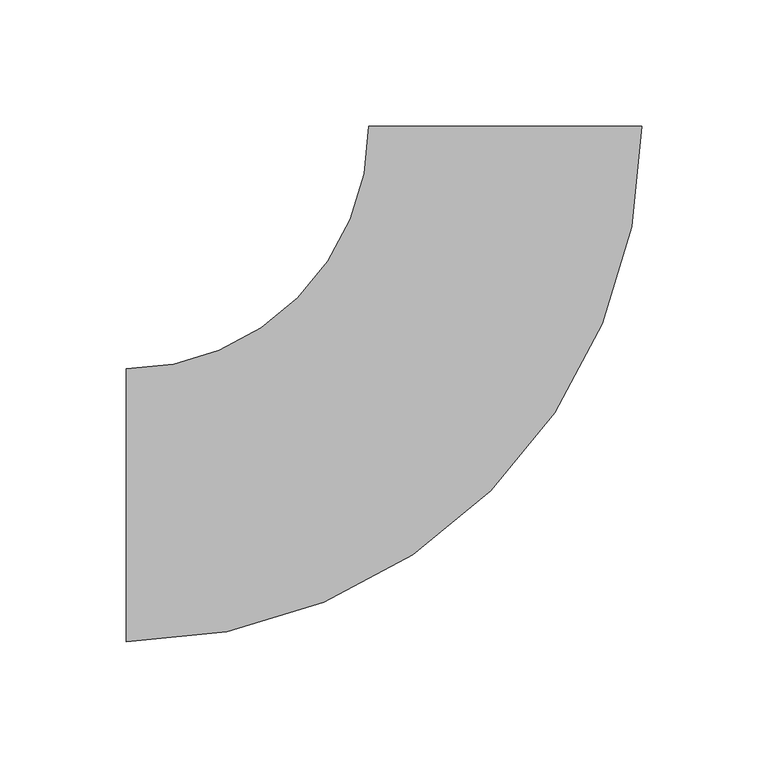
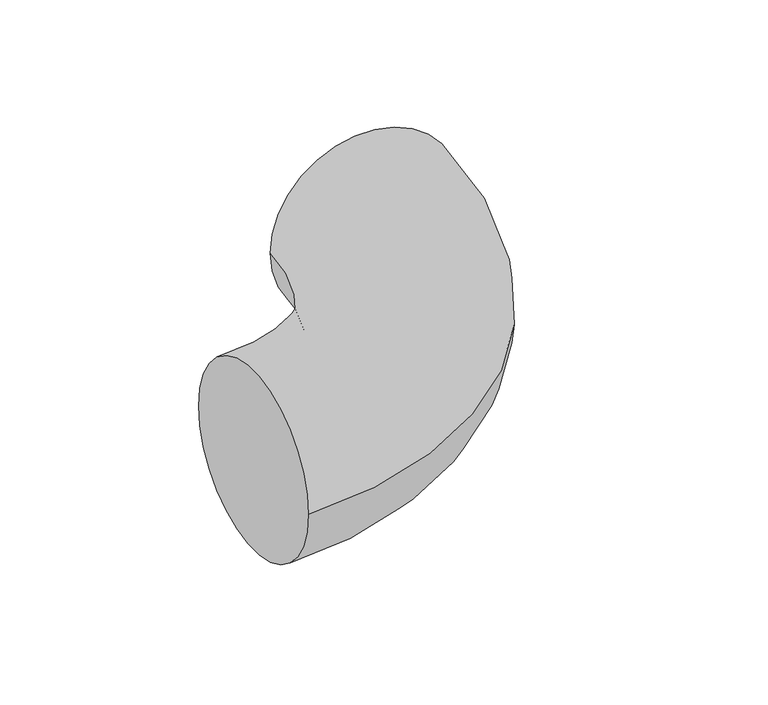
"""IFC4 building model written with IfcOpenShell, lengths in millimetres: pipe fitting geometry, ADSK_ДетальСтальнаяСварная_Отвод_ГОСТ17375-2001 : Исполнение 2."""

from ifc_helpers import new_model, si_unit, point, frame, origin, place, context, project, spatial, circle_curve, ellipse_curve, trimmed, source, transform, mapped, element, save
from ifc_brep_helpers import plane_surface, revolved_surface, advanced_brep


def pipe_fitting_2361bd71(model_context):
    return source(origin(), model_context, "Body", "AdvancedBrep", [
        advanced_brep(
        [(-150.0, -54.0, 0.0), (-150.0, 54.0, 0.0), (54.0, 150.0, 0.0), (-54.0, 150.0, 0.0)],
        [
            (0, 1, circle_curve(frame((-150.0, 0.0, 0.0), z_axis=(-1.0, 0.0, 0.0), x_axis=(0.0, 1.0, 0.0)), 54.0)),
            (1, 0, circle_curve(frame((-150.0, 0.0, 0.0), z_axis=(-1.0, 0.0, 0.0), x_axis=(0.0, 1.0, 0.0)), 54.0)),
            (2, 3, circle_curve(frame((0.0, 150.0, 0.0), z_axis=(0.0, 1.0, 0.0), x_axis=(-1.0, 0.0, 0.0)), 54.0)),
            (3, 2, circle_curve(frame((0.0, 150.0, 0.0), z_axis=(0.0, 1.0, 0.0), x_axis=(-1.0, 0.0, 0.0)), 54.0)),
            (3, 1, circle_curve(frame((-150.0, 150.0, 0.0), z_axis=(0.0, 0.0, -1.0), x_axis=(0.0, -1.0, 0.0)), 96.0)),
            (0, 2, circle_curve(frame((-150.0, 150.0, 0.0), z_axis=(0.0, 0.0, 1.0), x_axis=(0.0, -1.0, 0.0)), 204.0)),
        ],
        [
            plane_surface(frame((-150.0, 0.0, 0.0), z_axis=(-1.0, 0.0, 0.0), x_axis=(0.0, 0.0, 1.0))),
            plane_surface(frame((0.0, 150.0, 0.0), z_axis=(0.0, 1.0, 0.0), x_axis=(0.0, 0.0, 1.0))),
            revolved_surface(trimmed(ellipse_curve(frame((-150.0, 0.0, 0.0), z_axis=(-1.0, 0.0, 0.0), x_axis=(0.0, 1.0, 0.0)), 54.0, 54.0), [point((-150.0, -54.0, 0.0))], [point((-150.0, 54.0, 0.0))], True, "CARTESIAN"), (-150.0, 150.0, 0.0), (0.0, 0.0, 1.0)),
            revolved_surface(trimmed(ellipse_curve(frame((-150.0, 0.0, 0.0), z_axis=(-1.0, 0.0, 0.0), x_axis=(0.0, 1.0, 0.0)), 54.0, 54.0), [point((-150.0, 54.0, 0.0))], [point((-150.0, -54.0, 0.0))], True, "CARTESIAN"), (-150.0, 150.0, 0.0), (0.0, 0.0, 1.0)),
        ],
        [
            (0, [[1, 2]]),
            (1, [[3, 4]]),
            (2, [[5, -1, 6, -4]]),
            (3, [[-6, -2, -5, -3]]),
        ],
    ),
    ])


if __name__ == "__main__":
    model = new_model("IFC4")
    model_context = context("Model", 3, world=origin())
    ifc_project = project(units=[si_unit("LENGTHUNIT", "METRE", prefix="MILLI")], contexts=[model_context])
    site = spatial("IfcSite", under=ifc_project)
    building = spatial("IfcBuilding", under=site)
    placement = place(None, origin())
    pipe_fitting_shape = pipe_fitting_2361bd71(model_context)
    element("IfcPipeFitting", 1, ObjectType="ADSK_ДетальСтальнаяСварная_Отвод_ГОСТ17375-2001 : Исполнение 2", at=placement, inside=building, context=model_context, shape_type="MappedRepresentation", body=[
        mapped(pipe_fitting_shape, transform((0.0, 0.0, 0.0), x_axis=(1.0, 0.0, 0.0), y_axis=(0.0, 1.0, 0.0), z_axis=(0.0, 0.0, 1.0))),
    ])
    save(model, "model.ifc")
